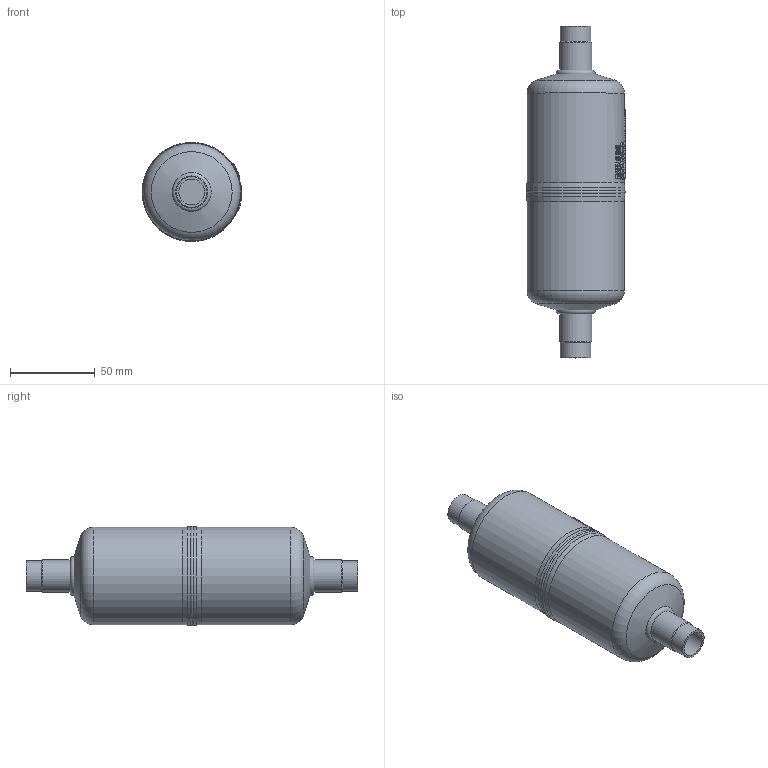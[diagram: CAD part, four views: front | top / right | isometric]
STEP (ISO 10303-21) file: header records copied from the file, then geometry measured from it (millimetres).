
FILE_DESCRIPTION(/* description */ (''),/* implementation_level */ '2;1');
FILE_NAME(/* name */ 'P:\GD\GD-15\GD-15.stp',/* time_stamp */ '2017-10-05T08:25:33+02:00',/* author */ ('neufeld'),/* organization */ (''),/* preprocessor_version */ 'ST-DEVELOPER v16.1',/* originating_system */ 'Autodesk Inventor 2016',/* authorisation */ '');
FILE_SCHEMA (('AUTOMOTIVE_DESIGN { 1 0 10303 214 3 1 1 }'));
Length unit declared in the file: millimetre
Products named in the file (2): GD-15; GD-15_1
Assembly tree (1 placements, depth 2):
  GD-15_1
    GD-15
Bounding box: 59.01 x 196.12 x 58.63 mm (x, y, z)
Volume: 358078.3 mm3; surface area: 33262.3 mm2
Topology: 1 solids, 1 shells, 1106 faces, 3030 edges, 2017 vertices
Faces by surface type: plane 602, bspline 396, cylinder 97, torus 7, cone 2, sphere 2
Full cylindrical faces by diameter (mm): 15.2 x2, 18 x2, 19 x2, 57.4 x2, 58 x2
Entity records: 42893 total; most frequent: CARTESIAN_POINT 16734, ORIENTED_EDGE 6018, DIRECTION 4494, EDGE_CURVE 3009, VERTEX_POINT 2015, AXIS2_PLACEMENT_3D 1564, LINE 1366, VECTOR 1366
